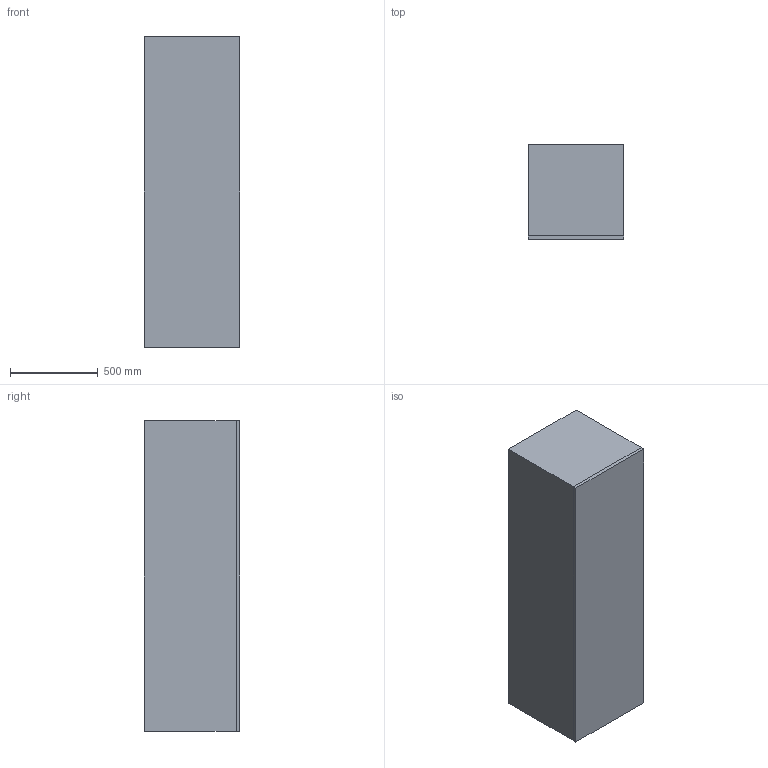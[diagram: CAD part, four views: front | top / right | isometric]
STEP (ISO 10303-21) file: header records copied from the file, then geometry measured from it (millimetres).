
FILE_DESCRIPTION(/* description */ (''),/* implementation_level */ '2;1');
FILE_NAME(/* name */ 'CO6178KVIL',/* time_stamp */ '2025-12-15T18:46:10+01:00',/* author */ (''),/* organization */ (''),/* preprocessor_version */ 'ST-DEVELOPER v16.5',/* originating_system */ 'Rhino 7.38',/* authorisation */ '');
FILE_SCHEMA (('AUTOMOTIVE_DESIGN'));
Length unit declared in the file: millimetre
Products named in the file (1): Document
Bounding box: 548 x 545 x 1776 mm (x, y, z)
Volume: 530420160 mm3; surface area: 6426152 mm2
Topology: 2 solids, 2 shells, 12 faces, 24 edges, 16 vertices
Faces by surface type: plane 12
Entity records: 307 total; most frequent: CARTESIAN_POINT 78, ORIENTED_EDGE 48, EDGE_CURVE 24, B_SPLINE_CURVE_WITH_KNOTS 24, VERTEX_POINT 16, DIRECTION 16, AXIS2_PLACEMENT_3D 14, ADVANCED_FACE 12
